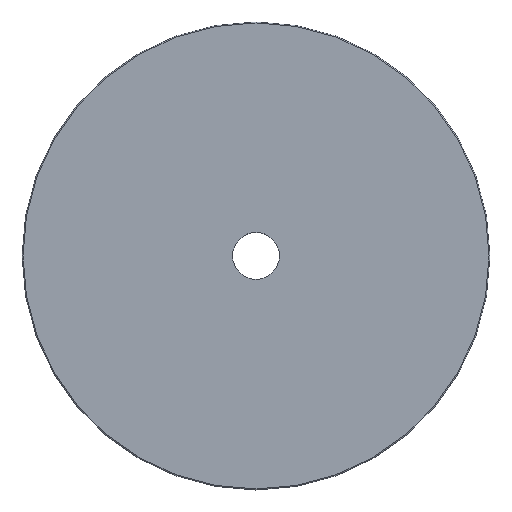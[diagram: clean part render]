
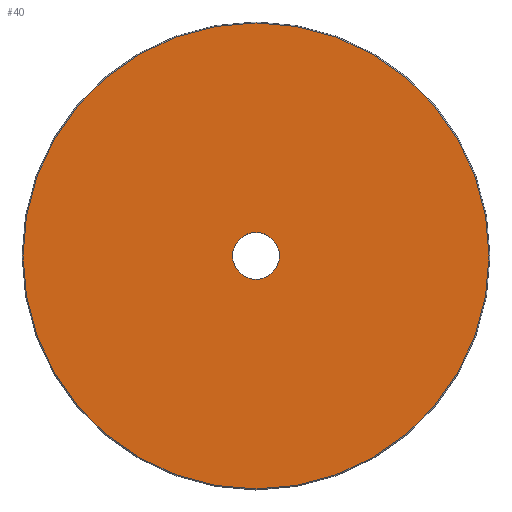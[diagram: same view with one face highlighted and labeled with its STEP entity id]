
A CAD part, top view. The second image highlights one B-rep face of the part: STEP entity #40.
In plain terms, the highlighted planar face has unit normal (0, 0, 1).
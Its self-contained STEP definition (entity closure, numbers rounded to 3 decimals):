
#37=PLANE('',#117);
#40=ADVANCED_FACE('',(#50,#51),#37,.T.);
#50=FACE_BOUND('',#64,.T.);
#51=FACE_BOUND('',#65,.T.);
#64=EDGE_LOOP('',(#78));
#65=EDGE_LOOP('',(#79));
#78=ORIENTED_EDGE('',*,*,#99,.T.);
#79=ORIENTED_EDGE('',*,*,#100,.T.);
#92=VERTEX_POINT('',#163);
#93=VERTEX_POINT('',#165);
#99=EDGE_CURVE('',#92,#92,#106,.T.);
#100=EDGE_CURVE('',#93,#93,#107,.T.);
#106=CIRCLE('',#115,24.9);
#107=CIRCLE('',#116,2.5);
#115=AXIS2_PLACEMENT_3D('',#162,#134,#135);
#116=AXIS2_PLACEMENT_3D('',#164,#136,#137);
#117=AXIS2_PLACEMENT_3D('',#166,#138,#139);
#134=DIRECTION('',(0.,0.,1.));
#135=DIRECTION('',(1.,0.,0.));
#136=DIRECTION('',(0.,0.,-1.));
#137=DIRECTION('',(1.,0.,0.));
#138=DIRECTION('',(0.,0.,1.));
#139=DIRECTION('',(1.,0.,0.));
#162=CARTESIAN_POINT('',(0.,0.,6.));
#163=CARTESIAN_POINT('',(24.9,0.,6.));
#164=CARTESIAN_POINT('',(0.,0.,6.));
#165=CARTESIAN_POINT('',(2.5,0.,6.));
#166=CARTESIAN_POINT('',(0.,0.,6.));
